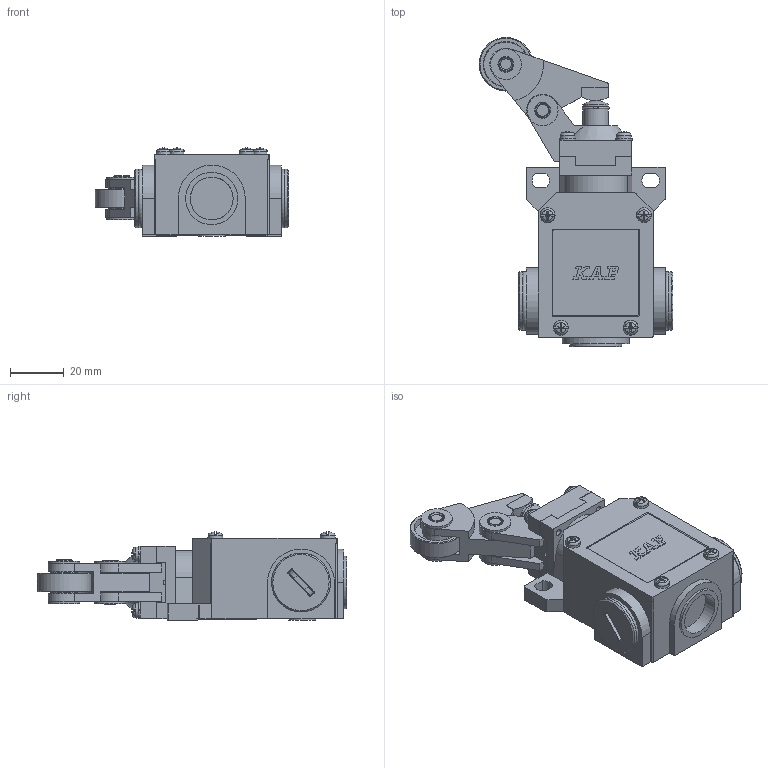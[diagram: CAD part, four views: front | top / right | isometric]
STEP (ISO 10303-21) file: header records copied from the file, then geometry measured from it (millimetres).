
FILE_DESCRIPTION(('Interruptor de Posicao 3 Entrada de Cabos c/ Cabecote Alavanca Lateral em Plastico c/ Roldana em Plastico'),'2;1');
FILE_NAME('E:\WorkFolder\Bibl\3DWeb\kp_lb_lb4$$v_step.stp','2011-12-16T15:33:31',('DIE'),('KAP Componentes Eletricos Ltda.'),'Autodesk Inventor 2011','Autodesk Inventor 2011','Direitos reservados. Proibido reproducao, cedencia ou revelacao de conteudo a terceiros, salvo com autorizacao.');
FILE_SCHEMA(('AUTOMOTIVE_DESIGN { 1 0 10303 214 1 1 1 1 }'));
Length unit declared in the file: millimetre
Products named in the file (3): LB4$$V; LB4$$; LBV
Assembly tree (2 placements, depth 2):
  LB4$$V
    LB4$$
    LBV
Bounding box: 72.33 x 115.39 x 32.88 mm (x, y, z)
Volume: 99486.6 mm3; surface area: 29246.2 mm2
Topology: 2 solids, 21 shells, 905 faces, 2328 edges, 1492 vertices
Faces by surface type: plane 461, cylinder 183, cone 120, torus 66, bspline 50, sphere 25
Full cylindrical faces by diameter (mm): 2.5 x8, 2.6 x12, 2.7 x4, 3 x4, 3.3 x4, 3.5 x8, 3.6 x8, 4.763 x2, 4.8 x4, 8.6 x1, 9.525 x2, 10 x1, 11.5 x6, 14 x2, 16 x1, 17 x2, 17.3 x1, 19.5 x1, 20 x1, 22 x2
Entity records: 31356 total; most frequent: CARTESIAN_POINT 9843, ORIENTED_EDGE 4168, DIRECTION 4167, EDGE_CURVE 2084, AXIS2_PLACEMENT_3D 1588, VERTEX_POINT 1413, EDGE_LOOP 1148, VECTOR 991
